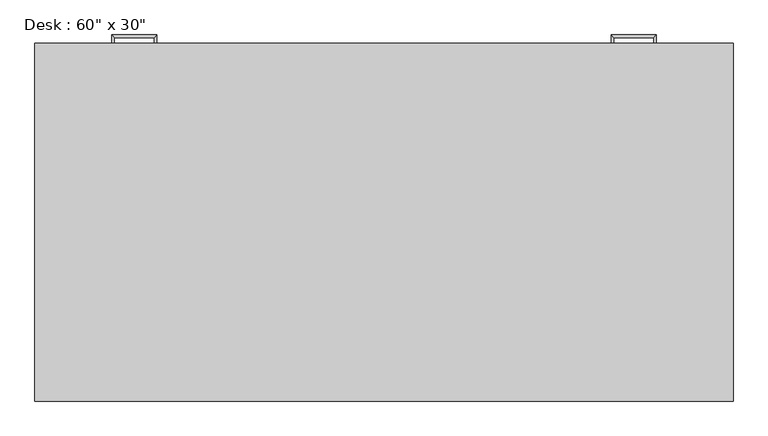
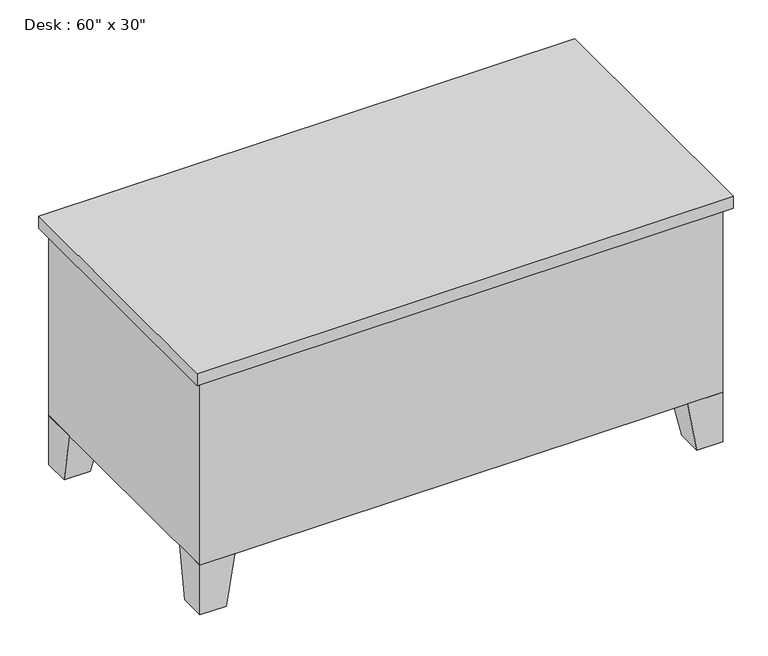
"""IFC4 building model written with IfcOpenShell, lengths in millimetres: furniture geometry."""

from ifc_helpers import new_model, si_unit, frame, origin, place, context, project, spatial, polyline, outline, extrude, faceted_brep, source, transform, mapped, element, save


def furniture_072f6425(model_context):
    return source(origin(), model_context, "Body", "SolidModel", [
        extrude(outline(polyline([(1504.95, 762.0), (1136.65, 762.0), (1136.65, 774.7), (1504.95, 774.7), (1504.95, 762.0)])), frame((0.0, 0.0, 603.25), z_axis=(0.0, 0.0, 1.0), x_axis=(1.0, 0.0, 0.0)), (0.0, 0.0, 1.0), 101.6),
        extrude(outline(polyline([(1504.95, 762.0), (1136.65, 762.0), (1136.65, 774.7), (1504.95, 774.7), (1504.95, 762.0)])), frame((0.0, 0.0, 171.45), z_axis=(0.0, 0.0, 1.0), x_axis=(1.0, 0.0, 0.0)), (0.0, 0.0, 1.0), 412.75),
        extrude(outline(polyline([(387.35, 762.0), (19.05, 762.0), (19.05, 774.7), (387.35, 774.7), (387.35, 762.0)])), frame((0.0, 0.0, 603.25), z_axis=(0.0, 0.0, 1.0), x_axis=(1.0, 0.0, 0.0)), (0.0, 0.0, 1.0), 101.6),
        extrude(outline(polyline([(387.35, 762.0), (19.05, 762.0), (19.05, 774.7), (387.35, 774.7), (387.35, 762.0)])), frame((0.0, 0.0, 171.45), z_axis=(0.0, 0.0, 1.0), x_axis=(1.0, 0.0, 0.0)), (0.0, 0.0, 1.0), 171.45),
        extrude(outline(polyline([(387.35, 762.0), (19.05, 762.0), (19.05, 774.7), (387.35, 774.7), (387.35, 762.0)])), frame((0.0, 0.0, 482.6), z_axis=(0.0, 0.0, 1.0), x_axis=(1.0, 0.0, 0.0)), (0.0, 0.0, 1.0), 101.6),
        extrude(outline(polyline([(387.35, 762.0), (19.05, 762.0), (19.05, 774.7), (387.35, 774.7), (387.35, 762.0)])), frame((0.0, 0.0, 361.95), z_axis=(0.0, 0.0, 1.0), x_axis=(1.0, 0.0, 0.0)), (0.0, 0.0, 1.0), 101.6),
        faceted_brep([(1422.4, 762.0, 152.4), (1422.4, 660.4, 152.4), (1524.0, 660.4, 152.4), (1524.0, 762.0, 152.4), (1447.8, 762.0, 0.0), (1524.0, 762.0, 0.0), (1524.0, 685.8, 0.0), (1447.8, 685.8, 0.0)], [[[0, 1, 2, 3]], [[4, 5, 6, 7]], [[4, 7, 1, 0]], [[7, 6, 2, 1]], [[6, 5, 3, 2]], [[5, 4, 0, 3]]]),
        faceted_brep([(1422.4, 0.0, 152.4), (1524.0, 0.0, 152.4), (1524.0, 101.6, 152.4), (1422.4, 101.6, 152.4), (1447.8, 0.0, 0.0), (1447.8, 76.2, 0.0), (1524.0, 76.2, 0.0), (1524.0, 0.0, 0.0)], [[[0, 1, 2, 3]], [[4, 5, 6, 7]], [[4, 7, 1, 0]], [[7, 6, 2, 1]], [[6, 5, 3, 2]], [[5, 4, 0, 3]]]),
        faceted_brep([(101.6, 0.0, 152.4), (101.6, 101.6, 152.4), (0.0, 101.6, 152.4), (0.0, 0.0, 152.4), (76.2, 0.0, 0.0), (0.0, 0.0, 0.0), (0.0, 76.2, 0.0), (76.2, 76.2, 0.0)], [[[0, 1, 2, 3]], [[4, 5, 6, 7]], [[4, 7, 1, 0]], [[7, 6, 2, 1]], [[6, 5, 3, 2]], [[5, 4, 0, 3]]]),
        faceted_brep([(101.6, 762.0, 152.4), (0.0, 762.0, 152.4), (0.0, 660.4, 152.4), (101.6, 660.4, 152.4), (76.2, 762.0, 0.0), (76.2, 685.8, 0.0), (0.0, 685.8, 0.0), (0.0, 762.0, 0.0)], [[[0, 1, 2, 3]], [[4, 5, 6, 7]], [[4, 7, 1, 0]], [[7, 6, 2, 1]], [[6, 5, 3, 2]], [[5, 4, 0, 3]]]),
        extrude(outline(polyline([(1543.05, 781.05), (1543.05, -19.05), (-19.05, -19.05), (-19.05, 781.05), (1543.05, 781.05)])), frame((0.0, 0.0, 723.9), z_axis=(0.0, 0.0, 1.0), x_axis=(1.0, 0.0, 0.0)), (0.0, 0.0, 1.0), 38.1),
        extrude(outline(polyline([(406.4, 762.0), (406.4, 50.8), (1117.6, 50.8), (1117.6, 762.0), (1524.0, 762.0), (1524.0, 0.0), (0.0, 0.0), (0.0, 762.0), (406.4, 762.0)])), frame((0.0, 0.0, 152.4), z_axis=(0.0, 0.0, 1.0), x_axis=(1.0, 0.0, 0.0)), (0.0, 0.0, 1.0), 571.5),
        faceted_brep([(1365.25, 774.7, 546.1), (1365.25, 774.7, 533.4), (1371.6, 774.7, 533.4), (1371.6, 774.7, 546.1), (1365.25, 793.75, 546.1), (1365.25, 793.75, 533.4), (1371.6, 800.1, 533.4), (1371.6, 800.1, 546.1), (1276.35, 793.75, 546.1), (1276.35, 793.75, 533.4), (1270.0, 800.1, 533.4), (1270.0, 800.1, 546.1), (1276.35, 774.7, 546.1), (1270.0, 774.7, 546.1), (1270.0, 774.7, 533.4), (1276.35, 774.7, 533.4)], [[[0, 1, 2, 3]], [[1, 0, 4, 5]], [[2, 1, 5, 6]], [[3, 2, 6, 7]], [[0, 3, 7, 4]], [[5, 4, 8, 9]], [[6, 5, 9, 10]], [[7, 6, 10, 11]], [[4, 7, 11, 8]], [[12, 13, 14, 15]], [[9, 8, 12, 15]], [[10, 9, 15, 14]], [[11, 10, 14, 13]], [[8, 11, 13, 12]]]),
        faceted_brep([(1365.25, 774.7, 666.75), (1365.25, 774.7, 654.05), (1371.6, 774.7, 654.05), (1371.6, 774.7, 666.75), (1365.25, 793.75, 666.75), (1365.25, 793.75, 654.05), (1371.6, 800.1, 654.05), (1371.6, 800.1, 666.75), (1276.35, 793.75, 666.75), (1276.35, 793.75, 654.05), (1270.0, 800.1, 654.05), (1270.0, 800.1, 666.75), (1276.35, 774.7, 666.75), (1270.0, 774.7, 666.75), (1270.0, 774.7, 654.05), (1276.35, 774.7, 654.05)], [[[0, 1, 2, 3]], [[1, 0, 4, 5]], [[2, 1, 5, 6]], [[3, 2, 6, 7]], [[0, 3, 7, 4]], [[5, 4, 8, 9]], [[6, 5, 9, 10]], [[7, 6, 10, 11]], [[4, 7, 11, 8]], [[12, 13, 14, 15]], [[9, 8, 12, 15]], [[10, 9, 15, 14]], [[11, 10, 14, 13]], [[8, 11, 13, 12]]]),
        faceted_brep([(158.75, 774.7, 304.8), (152.4, 774.7, 304.8), (152.4, 774.7, 292.1), (158.75, 774.7, 292.1), (158.75, 793.75, 304.8), (152.4, 800.1, 304.8), (152.4, 800.1, 292.1), (158.75, 793.75, 292.1), (247.65, 793.75, 304.8), (254.0, 800.1, 304.8), (254.0, 800.1, 292.1), (247.65, 793.75, 292.1), (247.65, 774.7, 304.8), (247.65, 774.7, 292.1), (254.0, 774.7, 292.1), (254.0, 774.7, 304.8)], [[[0, 1, 2, 3]], [[1, 0, 4, 5]], [[2, 1, 5, 6]], [[3, 2, 6, 7]], [[0, 3, 7, 4]], [[5, 4, 8, 9]], [[6, 5, 9, 10]], [[7, 6, 10, 11]], [[4, 7, 11, 8]], [[12, 13, 14, 15]], [[9, 8, 12, 15]], [[10, 9, 15, 14]], [[11, 10, 14, 13]], [[8, 11, 13, 12]]]),
        faceted_brep([(158.75, 774.7, 425.45), (152.4, 774.7, 425.45), (152.4, 774.7, 412.75), (158.75, 774.7, 412.75), (158.75, 793.75, 425.45), (152.4, 800.1, 425.45), (152.4, 800.1, 412.75), (158.75, 793.75, 412.75), (247.65, 793.75, 425.45), (254.0, 800.1, 425.45), (254.0, 800.1, 412.75), (247.65, 793.75, 412.75), (247.65, 774.7, 425.45), (247.65, 774.7, 412.75), (254.0, 774.7, 412.75), (254.0, 774.7, 425.45)], [[[0, 1, 2, 3]], [[1, 0, 4, 5]], [[2, 1, 5, 6]], [[3, 2, 6, 7]], [[0, 3, 7, 4]], [[5, 4, 8, 9]], [[6, 5, 9, 10]], [[7, 6, 10, 11]], [[4, 7, 11, 8]], [[12, 13, 14, 15]], [[9, 8, 12, 15]], [[10, 9, 15, 14]], [[11, 10, 14, 13]], [[8, 11, 13, 12]]]),
        faceted_brep([(158.75, 774.7, 546.1), (152.4, 774.7, 546.1), (152.4, 774.7, 533.4), (158.75, 774.7, 533.4), (158.75, 793.75, 546.1), (152.4, 800.1, 546.1), (152.4, 800.1, 533.4), (158.75, 793.75, 533.4), (247.65, 793.75, 546.1), (254.0, 800.1, 546.1), (254.0, 800.1, 533.4), (247.65, 793.75, 533.4), (247.65, 774.7, 546.1), (247.65, 774.7, 533.4), (254.0, 774.7, 533.4), (254.0, 774.7, 546.1)], [[[0, 1, 2, 3]], [[1, 0, 4, 5]], [[2, 1, 5, 6]], [[3, 2, 6, 7]], [[0, 3, 7, 4]], [[5, 4, 8, 9]], [[6, 5, 9, 10]], [[7, 6, 10, 11]], [[4, 7, 11, 8]], [[12, 13, 14, 15]], [[9, 8, 12, 15]], [[10, 9, 15, 14]], [[11, 10, 14, 13]], [[8, 11, 13, 12]]]),
        faceted_brep([(158.75, 774.7, 666.75), (152.4, 774.7, 666.75), (152.4, 774.7, 654.05), (158.75, 774.7, 654.05), (158.75, 793.75, 666.75), (152.4, 800.1, 666.75), (152.4, 800.1, 654.05), (158.75, 793.75, 654.05), (247.65, 793.75, 666.75), (254.0, 800.1, 666.75), (254.0, 800.1, 654.05), (247.65, 793.75, 654.05), (247.65, 774.7, 666.75), (247.65, 774.7, 654.05), (254.0, 774.7, 654.05), (254.0, 774.7, 666.75)], [[[0, 1, 2, 3]], [[1, 0, 4, 5]], [[2, 1, 5, 6]], [[3, 2, 6, 7]], [[0, 3, 7, 4]], [[5, 4, 8, 9]], [[6, 5, 9, 10]], [[7, 6, 10, 11]], [[4, 7, 11, 8]], [[12, 13, 14, 15]], [[9, 8, 12, 15]], [[10, 9, 15, 14]], [[11, 10, 14, 13]], [[8, 11, 13, 12]]]),
    ])


if __name__ == "__main__":
    model = new_model("IFC4")
    model_context = context("Model", 3, world=origin())
    ifc_project = project(units=[si_unit("LENGTHUNIT", "METRE", prefix="MILLI")], contexts=[model_context])
    site = spatial("IfcSite", under=ifc_project)
    building = spatial("IfcBuilding", under=site)
    placement = place(None, origin())
    furniture_shape = furniture_072f6425(model_context)
    element("IfcFurniture", 1, ObjectType="Desk : 60\" x 30\"", at=placement, inside=building, context=model_context, shape_type="MappedRepresentation", body=[
        mapped(furniture_shape, transform((0.0, 0.0, 0.0), x_axis=(1.0, 0.0, 0.0), y_axis=(0.0, 1.0, 0.0), z_axis=(0.0, 0.0, 1.0))),
    ])
    save(model, "model.ifc")
